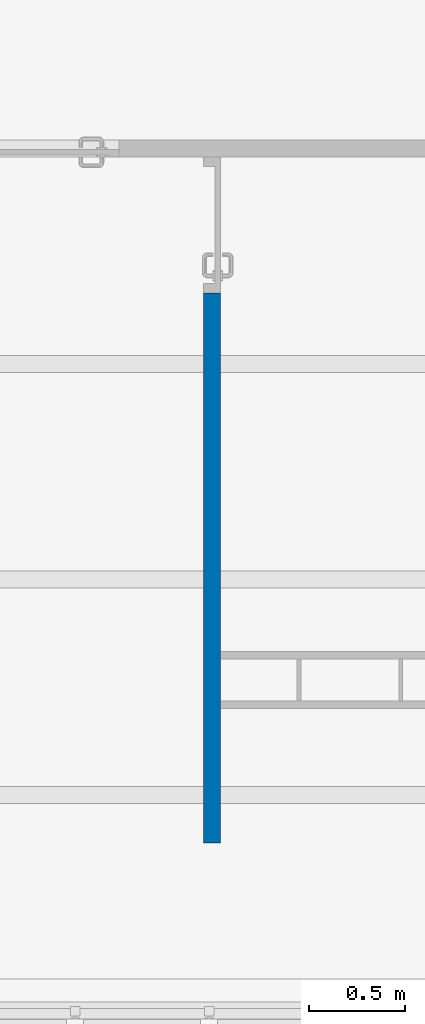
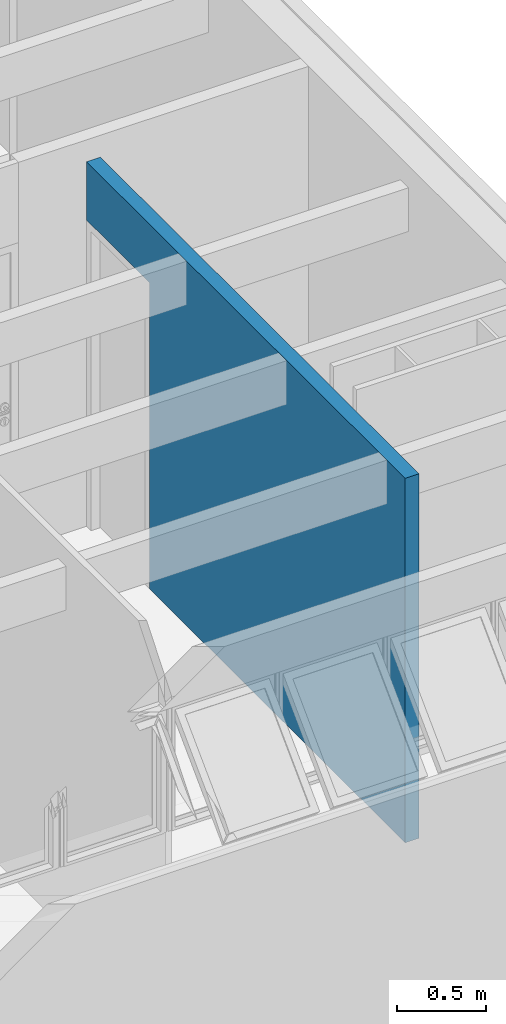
# One storey, part 24 of 37: 1 wall, 1 opening.
"""IFC2X3 building model written with IfcOpenShell, lengths in millimetres."""

from ifc_helpers import new_model, entity, si_unit, converted_unit, derived_unit, money_unit, direction, frame, origin_with_axes, origin_2d_with_axis, place, context, subcontext, project, spatial, polyline, rectangle, outline, extrude, material, layer, layer_set, layer_usage, type_object, element, save


model = new_model("IFC2X3")

# Units and contexts
model_context = context("Model", 3, precision=0.01, world=origin_with_axes(), true_north=direction((0.0, 1.0)))
body_context = subcontext(model_context, "Body", "Model", "MODEL_VIEW")
ifc_project = project(units=[si_unit("LENGTHUNIT", "METRE", prefix="MILLI"), si_unit("AREAUNIT", "SQUARE_METRE"), si_unit("VOLUMEUNIT", "CUBIC_METRE"), converted_unit("PLANEANGLEUNIT", "DEGREE", entity("IfcPlaneAngleMeasure", 0.0174532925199), si_unit("PLANEANGLEUNIT", "RADIAN"), dimensions=[0, 0, 0, 0, 0, 0, 0]), money_unit("USD"), converted_unit("TIMEUNIT", "Year", entity("IfcTimeMeasure", 31556926.0), si_unit("TIMEUNIT", "SECOND"), dimensions=[0, 0, 1, 0, 0, 0, 0]), si_unit("MASSUNIT", "GRAM", prefix="KILO"), si_unit("THERMODYNAMICTEMPERATUREUNIT", "DEGREE_CELSIUS"), si_unit("LUMINOUSINTENSITYUNIT", "LUMEN"), si_unit("ENERGYUNIT", "JOULE", prefix="MEGA"), derived_unit("THERMALCONDUCTANCEUNIT", [(si_unit("POWERUNIT", "WATT"), 1), (si_unit("LENGTHUNIT", "METRE"), -1), (si_unit("THERMODYNAMICTEMPERATUREUNIT", "KELVIN"), -1)]), derived_unit("SPECIFICHEATCAPACITYUNIT", [(si_unit("ENERGYUNIT", "JOULE"), 1), (si_unit("MASSUNIT", "GRAM", prefix="KILO"), -1), (si_unit("THERMODYNAMICTEMPERATUREUNIT", "KELVIN"), -1)]), derived_unit("MASSDENSITYUNIT", [(si_unit("MASSUNIT", "GRAM", prefix="KILO"), 1), (si_unit("VOLUMEUNIT", "CUBIC_METRE"), -1)])], contexts=[model_context])

# Site, building, storey
site_placement = place(None, origin_with_axes())
site = spatial("IfcSite", under=ifc_project, at=site_placement, Name="Local", CompositionType="ELEMENT")
building_placement = place(site_placement, origin_with_axes())
building = spatial("IfcBuilding", under=site, at=building_placement, Name="Construção", CompositionType="ELEMENT")
storey_placement = place(building_placement, origin_with_axes())
storey = spatial("IfcBuildingStorey", under=building, at=storey_placement, Name="Primeiro Pavimento", CompositionType="ELEMENT", Elevation=0.0)

# Wall, opening
ifc_material = material(Name="GENÉRICO - VEDAÇÃO EXTERNA")
ifc_layer = layer(ifc_material, 90.0, ventilated="UNKNOWN")
ifc_layer_set = layer_set([ifc_layer], Name="GENÉRICO - VEDAÇÃO EXTERNA 90")
ifc_layer_usage = layer_usage(ifc_layer_set, "AXIS2", "NEGATIVE", 0.0)
wall_type = type_object("IfcWallType", Name="GENÉRICO - VEDAÇÃO EXTERNA 90", PredefinedType="NOTDEFINED")
wall_placement = place(storey_placement, frame((13040.0, 18814.7804333, 0.0), z_axis=(0.0, 0.0, 1.0), x_axis=(0.0, 1.0, 0.0)))
wall = element("IfcWallStandardCase", 1, at=wall_placement, inside=storey, type_object=wall_type, material=ifc_layer_usage, Name="APTO4-PAREDE-012", context=body_context, shape_type="SweptSolid", body=[
    extrude(outline(polyline([(0.0, -90.0), (3580.0, -90.0), (3580.0, 0.0), (0.0, 0.0), (0.0, -90.0)])), origin_with_axes(), (0.0, 0.0, 1.0), 2500.0),
])
opening_placement = place(wall_placement, frame((3225.0, 0.0, 0.0), z_axis=(0.0, 0.0, 1.0), x_axis=(1.0, 0.0, 0.0)))
element("IfcOpeningElement", 2, at=opening_placement, cuts=wall, Name="APTO4-PORTA-003", context=body_context, shape_type="SweptSolid", body=[
    extrude(rectangle(XDim=710.0, YDim=2100.0, at=origin_2d_with_axis()), frame((0.0, -90.0, 1050.0), z_axis=(0.0, -1.0, 0.0), x_axis=(1.0, 0.0, 0.0)), (0.0, 0.0, -1.0), 270.0),
])

save(model, "model.ifc")
